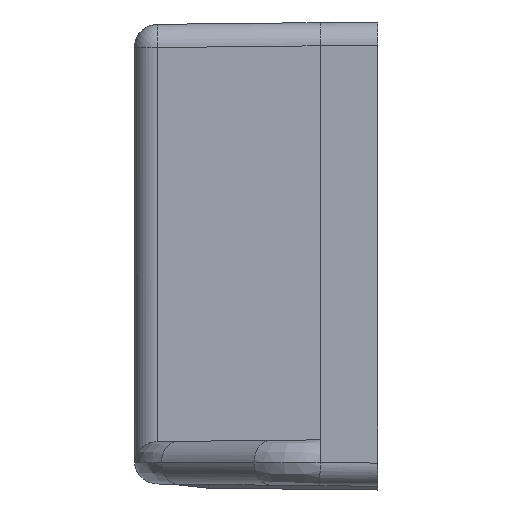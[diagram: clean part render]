
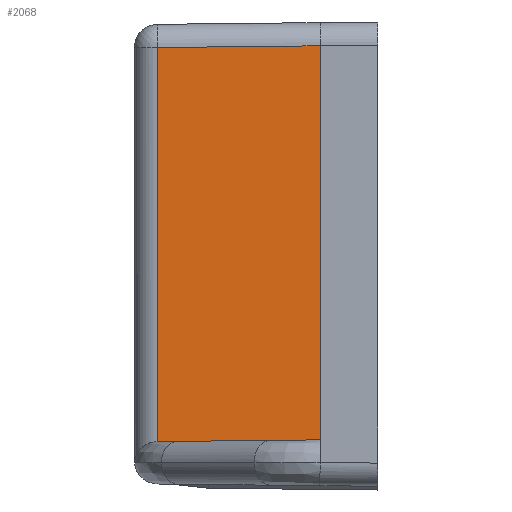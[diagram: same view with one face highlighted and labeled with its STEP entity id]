
A CAD part, left-side view. The second image highlights one B-rep face of the part: STEP entity #2068.
In plain terms, the highlighted planar face has unit normal (-1, 0.011, 0).
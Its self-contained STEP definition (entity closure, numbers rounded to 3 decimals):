
#760=DIRECTION('',(0.,0.,-1.));
#761=VECTOR('',#760,21.218);
#762=CARTESIAN_POINT('',(-34.013,11.863,23.626));
#763=LINE('',#762,#761);
#764=DIRECTION('',(-0.01,-1.,0.01));
#765=VECTOR('',#764,8.764);
#766=CARTESIAN_POINT('',(-34.013,11.863,23.626));
#767=LINE('',#766,#765);
#768=DIRECTION('',(-0.01,-1.,0.01));
#769=VECTOR('',#768,8.764);
#770=CARTESIAN_POINT('',(-34.013,11.863,2.408));
#771=LINE('',#770,#769);
#817=DIRECTION('',(0.,0.,-1.));
#818=VECTOR('',#817,21.218);
#819=CARTESIAN_POINT('',(-34.105,3.1,23.718));
#820=LINE('',#819,#818);
#885=CARTESIAN_POINT('',(-34.013,11.863,2.408));
#1169=CARTESIAN_POINT('',(-34.013,11.863,23.626));
#1170=CARTESIAN_POINT('',(-34.105,3.1,23.718));
#1171=VERTEX_POINT('',#1169);
#1172=VERTEX_POINT('',#1170);
#1177=CARTESIAN_POINT('',(-34.105,3.1,2.5));
#1178=VERTEX_POINT('',#1177);
#1202=VERTEX_POINT('',#885);
#2054=CARTESIAN_POINT('',(-34.,13.1,25.));
#2055=DIRECTION('',(-1.,0.01,0.));
#2056=DIRECTION('',(0.,0.,-1.));
#2057=AXIS2_PLACEMENT_3D('',#2054,#2055,#2056);
#2058=PLANE('',#2057);
#2059=ORIENTED_EDGE('',*,*,#2042,.F.);
#2061=ORIENTED_EDGE('',*,*,#2060,.T.);
#2063=ORIENTED_EDGE('',*,*,#2062,.T.);
#2065=ORIENTED_EDGE('',*,*,#2064,.F.);
#2066=EDGE_LOOP('',(#2059,#2061,#2063,#2065));
#2067=FACE_OUTER_BOUND('',#2066,.F.);
#2042=EDGE_CURVE('',#1171,#1202,#763,.T.);
#2060=EDGE_CURVE('',#1171,#1172,#767,.T.);
#2062=EDGE_CURVE('',#1172,#1178,#820,.T.);
#2064=EDGE_CURVE('',#1202,#1178,#771,.T.);
#2068=ADVANCED_FACE('',(#2067),#2058,.T.);
